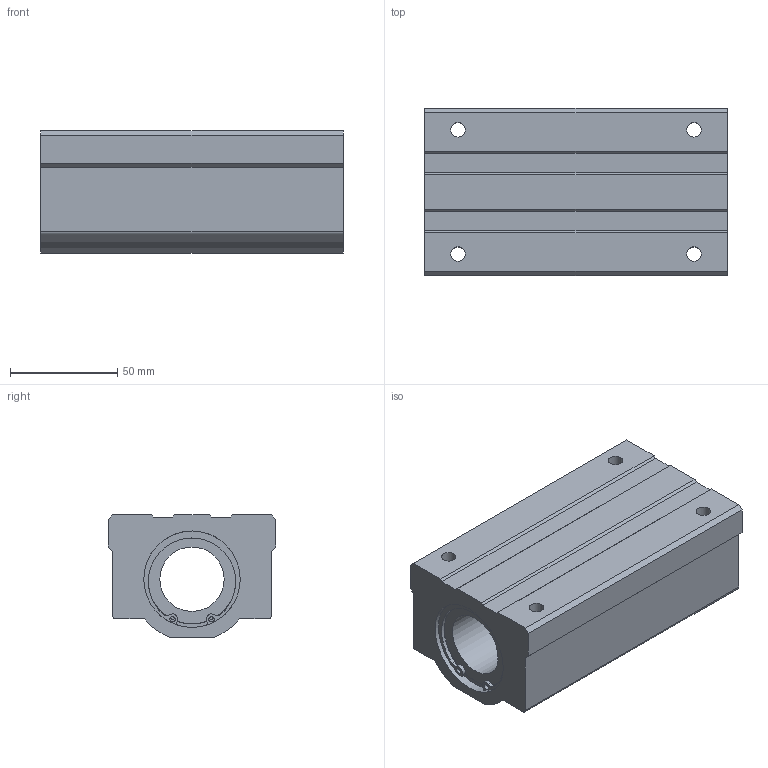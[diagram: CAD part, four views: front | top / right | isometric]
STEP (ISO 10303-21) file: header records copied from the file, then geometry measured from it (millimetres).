
FILE_DESCRIPTION((''),'2;1');
FILE_NAME('D:\製品 (図面)\カタログ用3D\メンテナンスフリー関連\STEP形式\LHW-MF\LHW30MF.stp','2010-06-01T16:11:12',('Tsuchiya'),(''),'Autodesk Inventor 10','Autodesk Inventor 10','');
FILE_SCHEMA(('AUTOMOTIVE_DESIGN { 1 0 10303 214 1 1 1 1 }'));
Length unit declared in the file: millimetre
Products named in the file (1): LHW30MF
Bounding box: 141 x 78 x 57 mm (x, y, z)
Volume: 440136 mm3; surface area: 61849.3 mm2
Topology: 1 solids, 3 shells, 81 faces, 215 edges, 138 vertices
Faces by surface type: plane 44, cylinder 20, bspline 17
Full cylindrical faces by diameter (mm): 2.5 x2, 30 x1, 41.7 x2, 43 x2, 45 x4
Entity records: 2552 total; most frequent: CARTESIAN_POINT 599, DIRECTION 414, ORIENTED_EDGE 372, EDGE_CURVE 186, AXIS2_PLACEMENT_3D 163, VERTEX_POINT 126, EDGE_LOOP 118, CIRCLE 98
